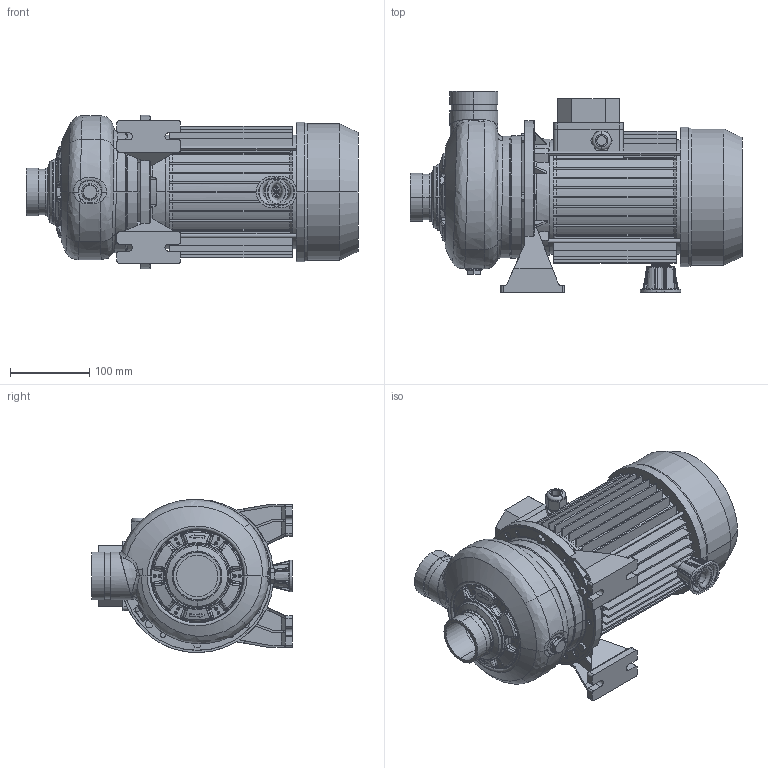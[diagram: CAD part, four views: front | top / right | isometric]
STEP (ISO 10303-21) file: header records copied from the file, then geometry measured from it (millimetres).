
FILE_DESCRIPTION((''),'2;1');
FILE_NAME('DWC_V_500_2_2_IE2_ASM','2011-06-27T',('Utente'),('"Ebara Pumps Europe +39.444.706811"'),'PRO/ENGINEER BY PARAMETRIC TECHNOLOGY CORPORATION, 2009360','PRO/ENGINEER BY PARAMETRIC TECHNOLOGY CORPORATION, 2009360','');
FILE_SCHEMA(('AUTOMOTIVE_DESIGN { 1 0 10303 214 1 1 1 1 }'));
Length unit declared in the file: millimetre
Products named in the file (12): MEC_90X120_IE2; 80598; 251420991; 10054; 76006; 40032; 62074; 10189; 20105_ASM; 72012; 360610016; DWC_V_500_2_2_IE2_ASM
Assembly tree (15 placements, depth 3):
  DWC_V_500_2_2_IE2_ASM
    MEC_90X120_IE2
    80598
    20105_ASM
      251420991
      10054
      76006  x2
      40032  x2
      62074
      10189
    72012  x2
    360610016  x2
Bounding box: 418 x 253 x 192.93 mm (x, y, z)
Volume: 3387916.5 mm3; surface area: 757053.2 mm2
Topology: 14 solids, 14 shells, 1789 faces, 4297 edges, 2592 vertices
Faces by surface type: plane 526, bspline 506, cylinder 306, torus 233, cone 172, sphere 42, extrusion 4
Entity records: 90949 total; most frequent: CARTESIAN_POINT 41385, ORIENTED_EDGE 7672, DIRECTION 6575, EDGE_CURVE 3836, PRESENTATION_STYLE_ASSIGNMENT 3833, STYLED_ITEM 3833, CURVE_STYLE 3824, AXIS2_PLACEMENT_3D 2713
